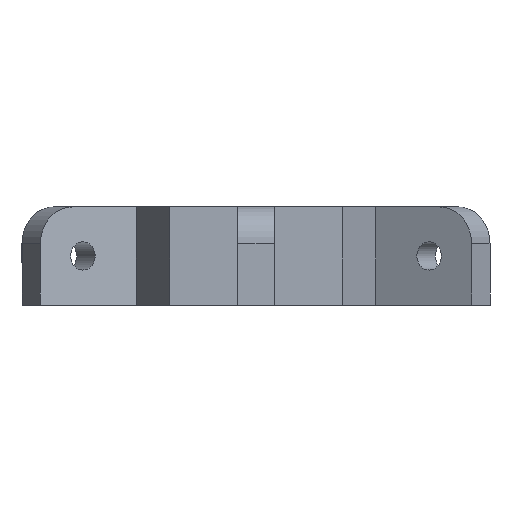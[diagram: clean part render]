
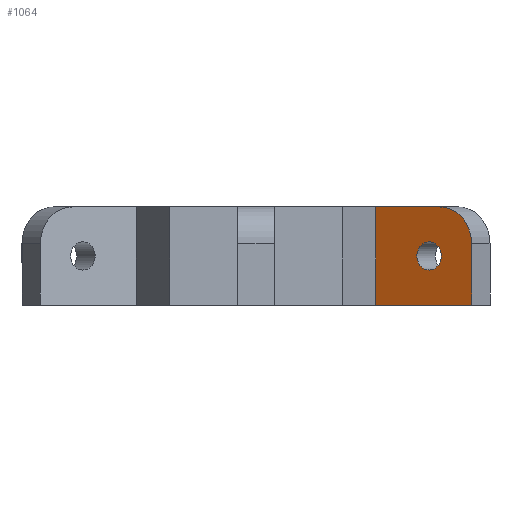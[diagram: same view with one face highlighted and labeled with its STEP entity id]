
A CAD part, left-side view. The second image highlights one B-rep face of the part: STEP entity #1064.
In plain terms, the highlighted planar face has unit normal (-0.866, 0.5, 0) as drawn and (0.866, 0.5, 0) by its records, which use the part's own axes.
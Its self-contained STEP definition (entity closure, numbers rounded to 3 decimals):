
#19=FACE_BOUND('',#143,.T.);
#34=PLANE('',#1133);
#87=FACE_OUTER_BOUND('',#142,.T.);
#142=EDGE_LOOP('',(#777,#778,#779,#780,#781));
#143=EDGE_LOOP('',(#782));
#200=CIRCLE('',#1130,3.);
#202=CIRCLE('',#1134,1.15);
#253=LINE('',#2956,#360);
#256=LINE('',#2962,#363);
#257=LINE('',#2964,#364);
#258=LINE('',#2965,#365);
#360=VECTOR('',#1233,10.);
#363=VECTOR('',#1238,10.);
#364=VECTOR('',#1239,10.);
#365=VECTOR('',#1240,10.);
#480=VERTEX_POINT('',#2946);
#481=VERTEX_POINT('',#2947);
#484=VERTEX_POINT('',#2955);
#486=VERTEX_POINT('',#2961);
#487=VERTEX_POINT('',#2963);
#488=VERTEX_POINT('',#2966);
#595=EDGE_CURVE('',#480,#481,#200,.T.);
#599=EDGE_CURVE('',#481,#484,#253,.T.);
#602=EDGE_CURVE('',#486,#480,#256,.T.);
#603=EDGE_CURVE('',#487,#486,#257,.F.);
#604=EDGE_CURVE('',#487,#484,#258,.T.);
#605=EDGE_CURVE('',#488,#488,#202,.T.);
#777=ORIENTED_EDGE('',*,*,#595,.F.);
#778=ORIENTED_EDGE('',*,*,#602,.F.);
#779=ORIENTED_EDGE('',*,*,#603,.F.);
#780=ORIENTED_EDGE('',*,*,#604,.T.);
#781=ORIENTED_EDGE('',*,*,#599,.F.);
#782=ORIENTED_EDGE('',*,*,#605,.T.);
#1064=ADVANCED_FACE('',(#87,#19),#34,.T.);
#1130=AXIS2_PLACEMENT_3D('',#2948,#1225,#1226);
#1133=AXIS2_PLACEMENT_3D('',#2960,#1236,#1237);
#1134=AXIS2_PLACEMENT_3D('',#2967,#1241,#1242);
#1225=DIRECTION('center_axis',(-0.866,-0.5,0.));
#1226=DIRECTION('ref_axis',(0.354,-0.612,-0.707));
#1233=DIRECTION('',(0.,0.,1.));
#1236=DIRECTION('center_axis',(0.866,0.5,0.));
#1237=DIRECTION('ref_axis',(0.,0.,1.));
#1238=DIRECTION('',(0.5,-0.866,0.));
#1239=DIRECTION('',(0.,0.,1.));
#1240=DIRECTION('',(0.5,-0.866,0.));
#1241=DIRECTION('center_axis',(-0.866,-0.5,0.));
#1242=DIRECTION('ref_axis',(0.5,-0.866,0.));
#2946=CARTESIAN_POINT('',(10.379,-14.977,25.));
#2947=CARTESIAN_POINT('',(11.879,-17.575,28.));
#2948=CARTESIAN_POINT('Origin',(10.379,-14.977,28.));
#2955=CARTESIAN_POINT('',(11.879,-17.575,33.));
#2956=CARTESIAN_POINT('',(11.879,-17.575,25.));
#2960=CARTESIAN_POINT('Origin',(5.879,-7.183,25.));
#2961=CARTESIAN_POINT('',(7.379,-9.781,25.));
#2962=CARTESIAN_POINT('',(5.879,-7.183,25.));
#2963=CARTESIAN_POINT('',(7.379,-9.781,33.));
#2964=CARTESIAN_POINT('',(7.379,-9.781,25.));
#2965=CARTESIAN_POINT('',(5.879,-7.183,33.));
#2966=CARTESIAN_POINT('',(9.304,-13.115,29.));
#2967=CARTESIAN_POINT('Origin',(9.879,-14.111,29.));
